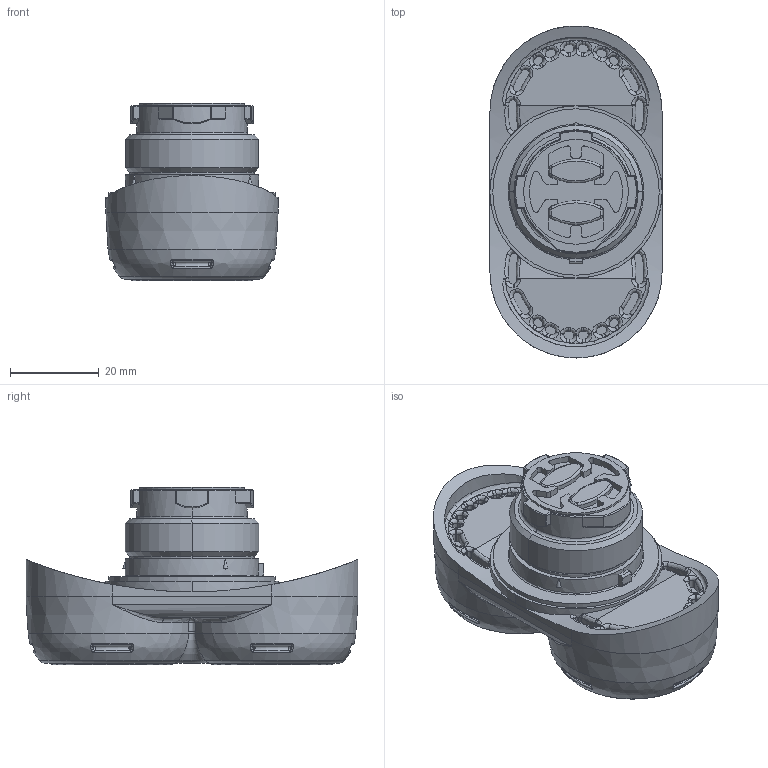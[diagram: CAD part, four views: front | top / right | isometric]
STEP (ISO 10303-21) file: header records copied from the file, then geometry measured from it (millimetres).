
FILE_DESCRIPTION((''),'2;1');
FILE_NAME('DOPPELDRUCKTASTE_COME_SW0001','2008-12-15T',('beil'),(''),'PRO/ENGINEER BY PARAMETRIC TECHNOLOGY CORPORATION, 2007160','PRO/ENGINEER BY PARAMETRIC TECHNOLOGY CORPORATION, 2007160','');
FILE_SCHEMA(('CONFIG_CONTROL_DESIGN'));
Length unit declared in the file: millimetre
Products named in the file (1): DOPPELDRUCKTASTE_COME_SW0001
Bounding box: 38.8 x 74.8 x 39.9 mm (x, y, z)
Volume: 55828.8 mm3; surface area: 11922 mm2
Topology: 1 solids, 1 shells, 760 faces, 1820 edges, 1084 vertices
Faces by surface type: cylinder 286, torus 173, plane 156, bspline 109, cone 20, sphere 16
Entity records: 26511 total; most frequent: CARTESIAN_POINT 9227, DIRECTION 3754, ORIENTED_EDGE 3624, EDGE_CURVE 1812, AXIS2_PLACEMENT_3D 1593, VERTEX_POINT 1084, CIRCLE 942, EDGE_LOOP 790
